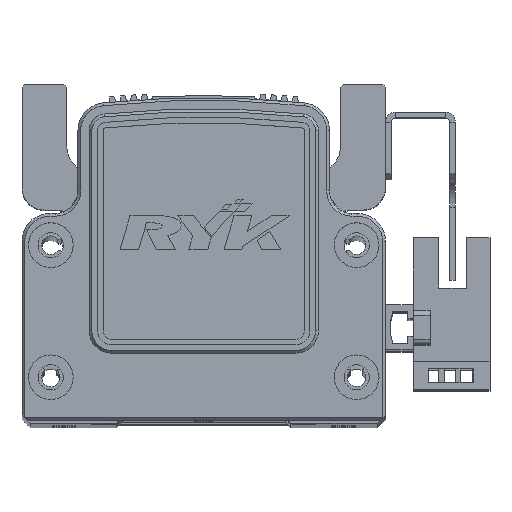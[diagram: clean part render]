
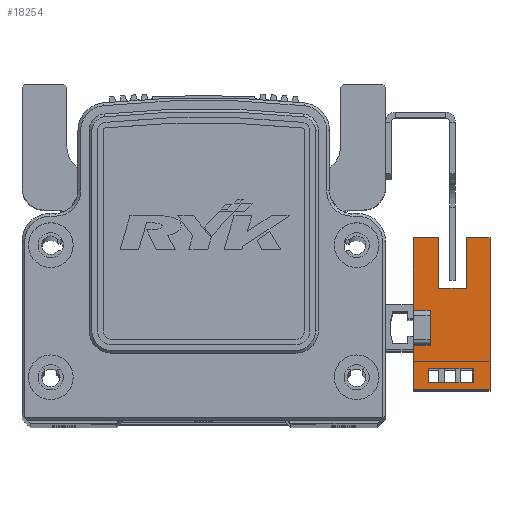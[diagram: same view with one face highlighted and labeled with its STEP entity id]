
A CAD part, top view. The second image highlights one B-rep face of the part: STEP entity #18254.
In plain terms, the highlighted planar face has unit normal (0, 0, 1) as drawn and (1, 0, 0) by its records, which use the part's own axes.
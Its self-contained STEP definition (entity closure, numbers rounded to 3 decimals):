
#104 = EDGE_LOOP ( 'NONE', ( #21297, #21292, #21322, #21348 ) ) ;
#121 = EDGE_LOOP ( 'NONE', ( #21319, #21325, #21308, #21317, #21318, #21316, #21296, #21298, #21271, #21363, #21376, #21275 ) ) ;
#716 = CARTESIAN_POINT ( 'NONE',  ( 3.2, -11.1, 3. ) ) ;
#730 = CARTESIAN_POINT ( 'NONE',  ( 3.2, -3.1, 3. ) ) ;
#746 = CARTESIAN_POINT ( 'NONE',  ( 3.2, 16.1, -6.5 ) ) ;
#776 = CARTESIAN_POINT ( 'NONE',  ( 3.2, 3.1, 3. ) ) ;
#787 = CARTESIAN_POINT ( 'NONE',  ( 3.2, 16.1, -1.5 ) ) ;
#790 = CARTESIAN_POINT ( 'NONE',  ( 3.2, 3.1, 0. ) ) ;
#795 = CARTESIAN_POINT ( 'NONE',  ( 3.2, 16.1, 3. ) ) ;
#799 = CARTESIAN_POINT ( 'NONE',  ( 3.2, -9.83, 0.3 ) ) ;
#801 = CARTESIAN_POINT ( 'NONE',  ( 3.2, 16.1, -10.7 ) ) ;
#832 = CARTESIAN_POINT ( 'NONE',  ( 3.2, 7.1, -6.5 ) ) ;
#838 = CARTESIAN_POINT ( 'NONE',  ( 3.2, -9.83, -7.7 ) ) ;
#852 = CARTESIAN_POINT ( 'NONE',  ( 3.2, -7.33, 0.3 ) ) ;
#863 = CARTESIAN_POINT ( 'NONE',  ( 3.2, -11.1, -10.7 ) ) ;
#865 = CARTESIAN_POINT ( 'NONE',  ( 3.2, 7.1, -1.5 ) ) ;
#8288 = CARTESIAN_POINT ( 'NONE',  ( 3.2, 16.1, -10.7 ) ) ;
#8299 = PLANE ( 'NONE',  #10282 ) ;
#8300 = DIRECTION ( 'NONE',  ( 1., 0., 0. ) ) ;
#8303 = DIRECTION ( 'NONE',  ( 0., 1., 0. ) ) ;
#10047 = VERTEX_POINT ( 'NONE', #746 ) ;
#10053 = VERTEX_POINT ( 'NONE', #730 ) ;
#10055 = VERTEX_POINT ( 'NONE', #716 ) ;
#10079 = VERTEX_POINT ( 'NONE', #801 ) ;
#10088 = VERTEX_POINT ( 'NONE', #776 ) ;
#10090 = VERTEX_POINT ( 'NONE', #795 ) ;
#10099 = VERTEX_POINT ( 'NONE', #787 ) ;
#10109 = VERTEX_POINT ( 'NONE', #799 ) ;
#10112 = VERTEX_POINT ( 'NONE', #790 ) ;
#10116 = VERTEX_POINT ( 'NONE', #832 ) ;
#10135 = VERTEX_POINT ( 'NONE', #852 ) ;
#10143 = VERTEX_POINT ( 'NONE', #838 ) ;
#10148 = VERTEX_POINT ( 'NONE', #863 ) ;
#10152 = VERTEX_POINT ( 'NONE', #865 ) ;
#10153 = VERTEX_POINT ( 'NONE', #37281 ) ;
#10162 = VERTEX_POINT ( 'NONE', #37272 ) ;
#10282 = AXIS2_PLACEMENT_3D ( 'NONE', #8288, #8300, #8303 ) ;
#16042 = FACE_OUTER_BOUND ( 'NONE', #121, .T. ) ;
#16043 = FACE_BOUND ( 'NONE', #104, .T. ) ;
#17188 = VECTOR ( 'NONE', #23963, 1000. ) ;
#17200 = LINE ( 'NONE', #23882, #17227 ) ;
#17215 = LINE ( 'NONE', #23953, #17217 ) ;
#17217 = VECTOR ( 'NONE', #23954, 1000. ) ;
#17218 = LINE ( 'NONE', #23962, #17188 ) ;
#17227 = VECTOR ( 'NONE', #23910, 1000. ) ;
#17228 = LINE ( 'NONE', #23943, #17230 ) ;
#17230 = VECTOR ( 'NONE', #23990, 1000. ) ;
#17249 = LINE ( 'NONE', #23977, #17293 ) ;
#17253 = VECTOR ( 'NONE', #23999, 1000. ) ;
#17260 = VECTOR ( 'NONE', #24048, 1000. ) ;
#17266 = LINE ( 'NONE', #23994, #17253 ) ;
#17275 = VECTOR ( 'NONE', #24021, 1000. ) ;
#17291 = LINE ( 'NONE', #24035, #17260 ) ;
#17293 = VECTOR ( 'NONE', #23981, 1000. ) ;
#17303 = LINE ( 'NONE', #24012, #17275 ) ;
#17308 = LINE ( 'NONE', #24087, #17352 ) ;
#17314 = LINE ( 'NONE', #24096, #17343 ) ;
#17343 = VECTOR ( 'NONE', #24088, 1000. ) ;
#17352 = VECTOR ( 'NONE', #24119, 1000. ) ;
#17374 = LINE ( 'NONE', #21925, #17397 ) ;
#17387 = VECTOR ( 'NONE', #21986, 1000. ) ;
#17397 = VECTOR ( 'NONE', #21927, 1000. ) ;
#17399 = LINE ( 'NONE', #21849, #17430 ) ;
#17402 = LINE ( 'NONE', #22015, #17426 ) ;
#17403 = LINE ( 'NONE', #21983, #17387 ) ;
#17420 = VECTOR ( 'NONE', #21975, 1000. ) ;
#17426 = VECTOR ( 'NONE', #21960, 1000. ) ;
#17428 = LINE ( 'NONE', #21967, #17420 ) ;
#17430 = VECTOR ( 'NONE', #21856, 1000. ) ;
#17537 = LINE ( 'NONE', #22256, #17539 ) ;
#17539 = VECTOR ( 'NONE', #22316, 1000. ) ;
#18254 = ADVANCED_FACE ( 'NONE', ( #16042, #16043 ), #8299, .T. ) ;
#21271 = ORIENTED_EDGE ( 'NONE', *, *, #33694, .F. ) ;
#21275 = ORIENTED_EDGE ( 'NONE', *, *, #33644, .T. ) ;
#21292 = ORIENTED_EDGE ( 'NONE', *, *, #33741, .F. ) ;
#21296 = ORIENTED_EDGE ( 'NONE', *, *, #33691, .F. ) ;
#21297 = ORIENTED_EDGE ( 'NONE', *, *, #33770, .F. ) ;
#21298 = ORIENTED_EDGE ( 'NONE', *, *, #33672, .F. ) ;
#21308 = ORIENTED_EDGE ( 'NONE', *, *, #33668, .T. ) ;
#21316 = ORIENTED_EDGE ( 'NONE', *, *, #33743, .F. ) ;
#21317 = ORIENTED_EDGE ( 'NONE', *, *, #33759, .T. ) ;
#21318 = ORIENTED_EDGE ( 'NONE', *, *, #33643, .F. ) ;
#21319 = ORIENTED_EDGE ( 'NONE', *, *, #33615, .T. ) ;
#21322 = ORIENTED_EDGE ( 'NONE', *, *, #33833, .F. ) ;
#21325 = ORIENTED_EDGE ( 'NONE', *, *, #33653, .T. ) ;
#21348 = ORIENTED_EDGE ( 'NONE', *, *, #33719, .F. ) ;
#21363 = ORIENTED_EDGE ( 'NONE', *, *, #33716, .F. ) ;
#21376 = ORIENTED_EDGE ( 'NONE', *, *, #33766, .T. ) ;
#21849 = CARTESIAN_POINT ( 'NONE',  ( 3.2, 3.1, 3. ) ) ;
#21856 = DIRECTION ( 'NONE',  ( 0., 0., 1. ) ) ;
#21925 = CARTESIAN_POINT ( 'NONE',  ( 3.2, -7.33, -10.7 ) ) ;
#21927 = DIRECTION ( 'NONE',  ( 0., 0., 1. ) ) ;
#21960 = DIRECTION ( 'NONE',  ( 0., 0., 1. ) ) ;
#21967 = CARTESIAN_POINT ( 'NONE',  ( 3.2, 16.1, -10.7 ) ) ;
#21975 = DIRECTION ( 'NONE',  ( 0., 1., 0. ) ) ;
#21983 = CARTESIAN_POINT ( 'NONE',  ( 3.2, 16.1, 0.3 ) ) ;
#21986 = DIRECTION ( 'NONE',  ( 0., -1., 0. ) ) ;
#22015 = CARTESIAN_POINT ( 'NONE',  ( 3.2, 16.1, -10.7 ) ) ;
#22256 = CARTESIAN_POINT ( 'NONE',  ( 3.2, 16.1, -7.7 ) ) ;
#22316 = DIRECTION ( 'NONE',  ( 0., 1., 0. ) ) ;
#23882 = CARTESIAN_POINT ( 'NONE',  ( 3.2, 25.1, -6.5 ) ) ;
#23910 = DIRECTION ( 'NONE',  ( 0., -1., 0. ) ) ;
#23943 = CARTESIAN_POINT ( 'NONE',  ( 3.2, 7.1, -6.5 ) ) ;
#23953 = CARTESIAN_POINT ( 'NONE',  ( 3.2, 16.1, 3. ) ) ;
#23954 = DIRECTION ( 'NONE',  ( 0., 1., 0. ) ) ;
#23962 = CARTESIAN_POINT ( 'NONE',  ( 3.2, 16.1, -10.7 ) ) ;
#23963 = DIRECTION ( 'NONE',  ( 0., 0., 1. ) ) ;
#23977 = CARTESIAN_POINT ( 'NONE',  ( 3.2, 25.1, -1.5 ) ) ;
#23981 = DIRECTION ( 'NONE',  ( 0., 1., 0. ) ) ;
#23990 = DIRECTION ( 'NONE',  ( 0., 0., 1. ) ) ;
#23994 = CARTESIAN_POINT ( 'NONE',  ( 3.2, -3.1, 3. ) ) ;
#23999 = DIRECTION ( 'NONE',  ( 0., 0., -1. ) ) ;
#24012 = CARTESIAN_POINT ( 'NONE',  ( 3.2, 0., 0. ) ) ;
#24021 = DIRECTION ( 'NONE',  ( 0., 1., 0. ) ) ;
#24035 = CARTESIAN_POINT ( 'NONE',  ( 3.2, 16.1, 3. ) ) ;
#24048 = DIRECTION ( 'NONE',  ( 0., 1., 0. ) ) ;
#24087 = CARTESIAN_POINT ( 'NONE',  ( 3.2, -11.1, 3. ) ) ;
#24088 = DIRECTION ( 'NONE',  ( 0., 0., -1. ) ) ;
#24096 = CARTESIAN_POINT ( 'NONE',  ( 3.2, -9.83, -10.7 ) ) ;
#24119 = DIRECTION ( 'NONE',  ( 0., 0., 1. ) ) ;
#33615 = EDGE_CURVE ( 'NONE', #10047, #10116, #17200, .T. ) ;
#33643 = EDGE_CURVE ( 'NONE', #10088, #10090, #17215, .T. ) ;
#33644 = EDGE_CURVE ( 'NONE', #10079, #10047, #17218, .T. ) ;
#33653 = EDGE_CURVE ( 'NONE', #10116, #10152, #17228, .T. ) ;
#33668 = EDGE_CURVE ( 'NONE', #10152, #10099, #17249, .T. ) ;
#33672 = EDGE_CURVE ( 'NONE', #10053, #10153, #17266, .T. ) ;
#33691 = EDGE_CURVE ( 'NONE', #10153, #10112, #17303, .T. ) ;
#33694 = EDGE_CURVE ( 'NONE', #10055, #10053, #17291, .T. ) ;
#33716 = EDGE_CURVE ( 'NONE', #10148, #10055, #17308, .T. ) ;
#33719 = EDGE_CURVE ( 'NONE', #10109, #10143, #17314, .T. ) ;
#33741 = EDGE_CURVE ( 'NONE', #10162, #10135, #17374, .T. ) ;
#33743 = EDGE_CURVE ( 'NONE', #10112, #10088, #17399, .T. ) ;
#33759 = EDGE_CURVE ( 'NONE', #10099, #10090, #17402, .T. ) ;
#33766 = EDGE_CURVE ( 'NONE', #10148, #10079, #17428, .T. ) ;
#33770 = EDGE_CURVE ( 'NONE', #10135, #10109, #17403, .T. ) ;
#33833 = EDGE_CURVE ( 'NONE', #10143, #10162, #17537, .T. ) ;
#37272 = CARTESIAN_POINT ( 'NONE',  ( 3.2, -7.33, -7.7 ) ) ;
#37281 = CARTESIAN_POINT ( 'NONE',  ( 3.2, -3.1, 0. ) ) ;
